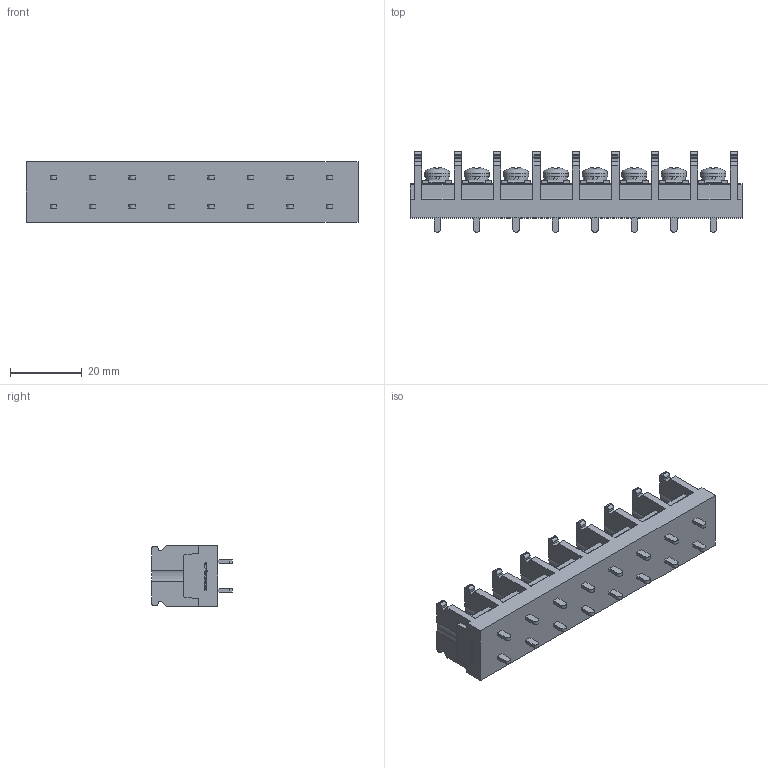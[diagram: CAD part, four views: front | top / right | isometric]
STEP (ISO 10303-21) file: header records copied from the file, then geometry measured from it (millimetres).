
FILE_DESCRIPTION(/* description */ ('Alibre Inc.'),/* implementation_level */ '2;1');
FILE_NAME(/* name */ 'export0',/* time_stamp */ '2015-10-19T19:43:57+09:00',/* author */ (''),/* organization */ (''),/* preprocessor_version */ 'ST-DEVELOPER v14',/* originating_system */ 'Alibre',/* authorisation */ '');
FILE_SCHEMA (('CONFIG_CONTROL_DESIGN'));
Length unit declared in the file: centimetre
Products named in the file (1): ID_1
Bounding box: 92.6 x 22.5 x 17 mm (x, y, z)
Volume: 17515.4 mm3; surface area: 10028.4 mm2
Topology: 1 solids, 1 shells, 1048 faces, 2898 edges, 1924 vertices
Faces by surface type: plane 738, cylinder 150, bspline 104, cone 32, torus 16, sphere 8
Full cylindrical faces by diameter (mm): 4 x8, 6.5 x8, 7 x8
Entity records: 32334 total; most frequent: CARTESIAN_POINT 6938, ORIENTED_EDGE 5684, DIRECTION 4210, EDGE_CURVE 2842, VECTOR 2018, LINE 2018, VERTEX_POINT 1900, AXIS2_PLACEMENT_3D 1452
